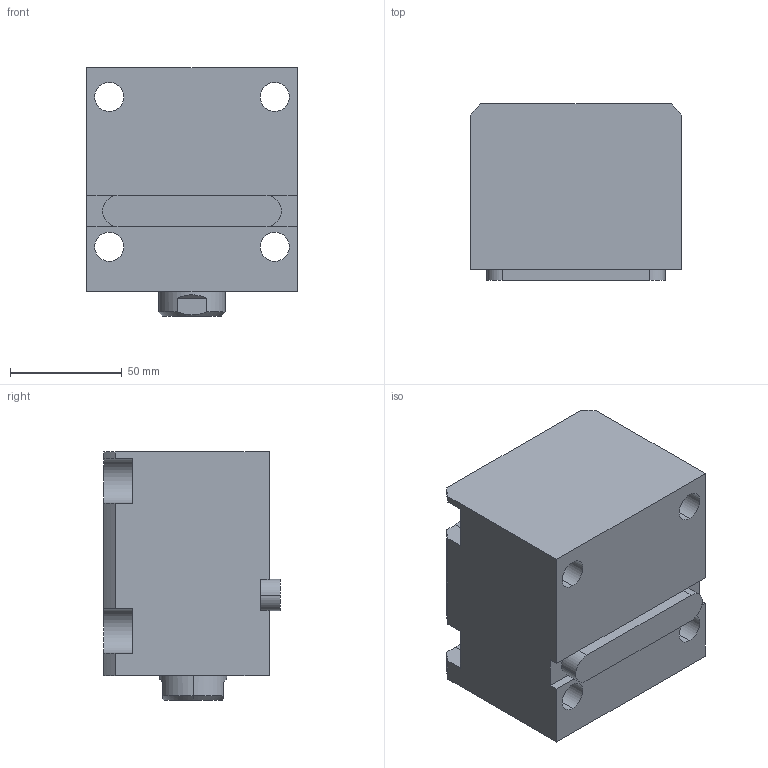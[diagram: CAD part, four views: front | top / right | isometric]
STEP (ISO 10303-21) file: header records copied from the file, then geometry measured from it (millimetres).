
FILE_DESCRIPTION (( 'STEP AP203' ), '1' );
FILE_NAME ('CHTB-LA50-40N.STEP', '2018-05-18T01:27:26', ( '' ), ( '' ), 'SwSTEP 2.0', 'SolidWorks 2015', '' );
FILE_SCHEMA (( 'CONFIG_CONTROL_DESIGN' ));
Length unit declared in the file: millimetre
Products named in the file (4): 掛极LA50-40N; CHTM-SDMA50QG; CHTB-LA50-40N; 活塞杆LA50-40N
Assembly tree (3 placements, depth 2):
  CHTB-LA50-40N
    掛极LA50-40N
    活塞杆LA50-40N
    CHTM-SDMA50QG
Bounding box: 94 x 79 x 111 mm (x, y, z)
Volume: 589564.5 mm3; surface area: 106880.3 mm2
Topology: 3 solids, 3 shells, 202 faces, 542 edges, 358 vertices
Faces by surface type: cylinder 96, plane 53, cone 23, torus 16, bspline 14
Entity records: 11255 total; most frequent: CARTESIAN_POINT 5992, ORIENTED_EDGE 1072, DIRECTION 958, EDGE_CURVE 536, AXIS2_PLACEMENT_3D 377, VERTEX_POINT 358, EDGE_LOOP 234, VECTOR 204
